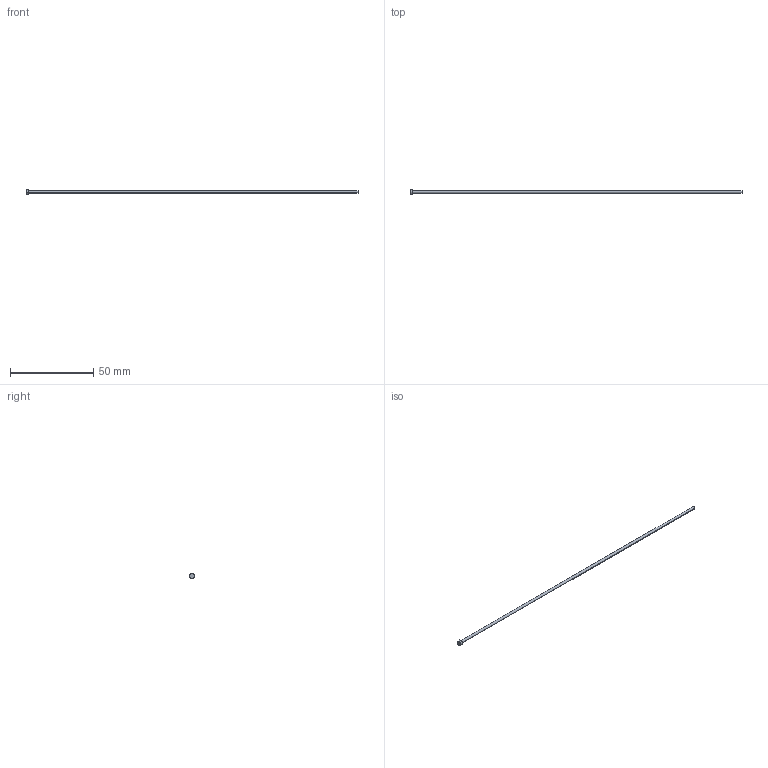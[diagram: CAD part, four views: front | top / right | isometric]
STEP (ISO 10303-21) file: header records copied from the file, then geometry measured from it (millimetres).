
FILE_DESCRIPTION (( 'STEP AP214' ), '1' );
FILE_NAME ('A-1,7x200.STEP', '2020-05-28T16:39:59', ( 'August' ), ( '' ), 'SwSTEP 2.0', 'SolidWorks 2018', '' );
FILE_SCHEMA (( 'AUTOMOTIVE_DESIGN' ));
Length unit declared in the file: millimetre
Products named in the file (1): A-1,7x200
Bounding box: 200 x 3 x 3 mm (x, y, z)
Volume: 461.2 mm3; surface area: 1088 mm2
Topology: 1 solids, 1 shells, 9 faces, 16 edges, 10 vertices
Faces by surface type: cylinder 4, plane 3, torus 2
Entity records: 260 total; most frequent: DIRECTION 48, CARTESIAN_POINT 36, ORIENTED_EDGE 32, AXIS2_PLACEMENT_3D 22, EDGE_CURVE 16, CIRCLE 12, EDGE_LOOP 10, VERTEX_POINT 10
